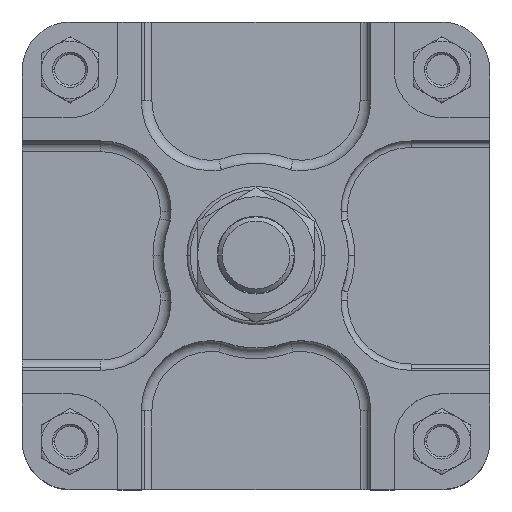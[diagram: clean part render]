
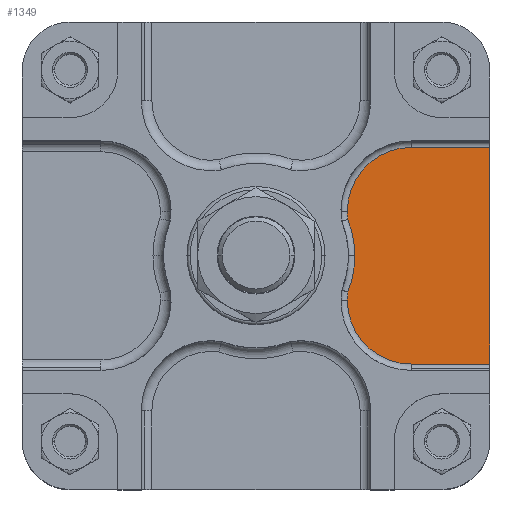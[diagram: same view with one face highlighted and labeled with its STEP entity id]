
A CAD part, top view. The second image highlights one B-rep face of the part: STEP entity #1349.
In plain terms, the highlighted planar face has unit normal (0, 0, 1).
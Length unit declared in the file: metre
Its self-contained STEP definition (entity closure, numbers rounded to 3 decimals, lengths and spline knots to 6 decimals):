
#1349=ADVANCED_FACE('3:3350',(#2869),#2870,.T.);
#2869=FACE_OUTER_BOUND('',#4644,.T.);
#2870=PLANE('',#4645);
#4644=EDGE_LOOP('',(#9419,#9420,#9421,#9422,#9423,#9424,#9425,#9426,#9427));
#4645=AXIS2_PLACEMENT_3D('',#9428,#9429,#9430);
#9419=ORIENTED_EDGE('',*,*,#12235,.F.);
#9420=ORIENTED_EDGE('',*,*,#12237,.F.);
#9421=ORIENTED_EDGE('',*,*,#11079,.F.);
#9422=ORIENTED_EDGE('',*,*,#11124,.F.);
#9423=ORIENTED_EDGE('',*,*,#12122,.F.);
#9424=ORIENTED_EDGE('',*,*,#11129,.F.);
#9425=ORIENTED_EDGE('',*,*,#12119,.F.);
#9426=ORIENTED_EDGE('',*,*,#11134,.F.);
#9427=ORIENTED_EDGE('',*,*,#12116,.F.);
#9428=CARTESIAN_POINT('',(0.11,0.,0.02725));
#9429=DIRECTION('',(-0.0,0.,1.0));
#9430=DIRECTION('',(1.0,0.0,0.0));
#11079=EDGE_CURVE('3:164529',#13059,#13061,#13062,.T.);
#11124=EDGE_CURVE('',#13138,#13059,#13141,.T.);
#11129=EDGE_CURVE('',#13146,#13149,#13150,.T.);
#11134=EDGE_CURVE('',#13155,#13157,#13158,.T.);
#12116=EDGE_CURVE('3:164511',#14551,#13155,#14553,.T.);
#12119=EDGE_CURVE('3:164505',#13157,#13146,#14556,.T.);
#12122=EDGE_CURVE('3:164523',#13149,#13138,#14559,.T.);
#12235=EDGE_CURVE('3:164517',#14709,#14551,#14711,.T.);
#12237=EDGE_CURVE('3:3731',#13061,#14709,#14713,.F.);
#13059=VERTEX_POINT('',#15788);
#13061=VERTEX_POINT('',#15790);
#13062=LINE('',#15791,#15792);
#13138=VERTEX_POINT('',#15904);
#13141=CIRCLE('',#15907,0.03);
#13146=VERTEX_POINT('',#15912);
#13149=VERTEX_POINT('',#15915);
#13150=CIRCLE('',#15916,0.04649);
#13155=VERTEX_POINT('',#15934);
#13157=VERTEX_POINT('',#15936);
#13158=CIRCLE('',#15937,0.03);
#14551=VERTEX_POINT('',#22345);
#14553=CIRCLE('',#22347,0.03);
#14556=CIRCLE('',#22350,0.04649);
#14559=CIRCLE('',#22353,0.03);
#14709=VERTEX_POINT('',#22567);
#14711=LINE('',#22569,#22570);
#14713=LINE('',#22572,#22573);
#15788=CARTESIAN_POINT('',(0.183,0.051,0.02725));
#15790=CARTESIAN_POINT('',(0.22,0.051,0.02725));
#15791=CARTESIAN_POINT('',(0.15575,0.051,0.02725));
#15792=VECTOR('',#23953,1.0);
#15904=CARTESIAN_POINT('',(0.153,0.021,0.02725));
#15907=AXIS2_PLACEMENT_3D('',#24033,#24034,#24035);
#15912=CARTESIAN_POINT('',(0.15649,0.,0.02725));
#15915=CARTESIAN_POINT('',(0.153267,0.01701,0.02725));
#15916=AXIS2_PLACEMENT_3D('',#24045,#24046,#24047);
#15934=CARTESIAN_POINT('',(0.153,-0.021,0.02725));
#15936=CARTESIAN_POINT('',(0.153267,-0.01701,0.02725));
#15937=AXIS2_PLACEMENT_3D('',#24054,#24055,#24056);
#22345=CARTESIAN_POINT('',(0.183,-0.051,0.02725));
#22347=AXIS2_PLACEMENT_3D('',#25056,#25057,#25058);
#22350=AXIS2_PLACEMENT_3D('',#25062,#25063,#25064);
#22353=AXIS2_PLACEMENT_3D('',#25068,#25069,#25070);
#22567=CARTESIAN_POINT('',(0.22,-0.051,0.02725));
#22569=CARTESIAN_POINT('',(0.15575,-0.051,0.02725));
#22570=VECTOR('',#25220,1.0);
#22572=CARTESIAN_POINT('',(0.22,0.,0.02725));
#22573=VECTOR('',#25221,1.0);
#23953=DIRECTION('',(1.0,0.0,0.0));
#24033=CARTESIAN_POINT('',(0.183,0.021,0.02725));
#24034=DIRECTION('',(0.0,0.,-1.0));
#24035=DIRECTION('',(-0.756,0.654,0.));
#24045=CARTESIAN_POINT('',(0.11,0.,0.02725));
#24046=DIRECTION('',(0.,0.,1.0));
#24047=DIRECTION('',(1.0,0.,0.));
#24054=CARTESIAN_POINT('',(0.183,-0.021,0.02725));
#24055=DIRECTION('',(0.0,0.,-1.0));
#24056=DIRECTION('',(-0.756,-0.654,0.));
#25056=CARTESIAN_POINT('',(0.183,-0.021,0.02725));
#25057=DIRECTION('',(0.0,0.,-1.0));
#25058=DIRECTION('',(-0.756,-0.654,0.));
#25062=CARTESIAN_POINT('',(0.11,0.,0.02725));
#25063=DIRECTION('',(0.,0.,1.0));
#25064=DIRECTION('',(1.0,0.,0.));
#25068=CARTESIAN_POINT('',(0.183,0.021,0.02725));
#25069=DIRECTION('',(0.0,0.,-1.0));
#25070=DIRECTION('',(-0.756,0.654,0.));
#25220=DIRECTION('',(-1.0,0.,0.));
#25221=DIRECTION('',(0.0,1.0,0.));
